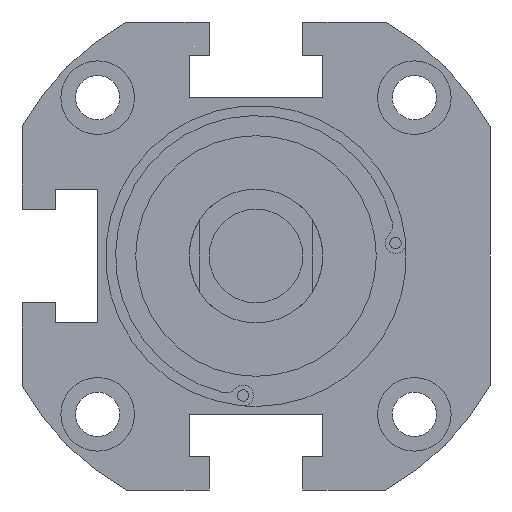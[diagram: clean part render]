
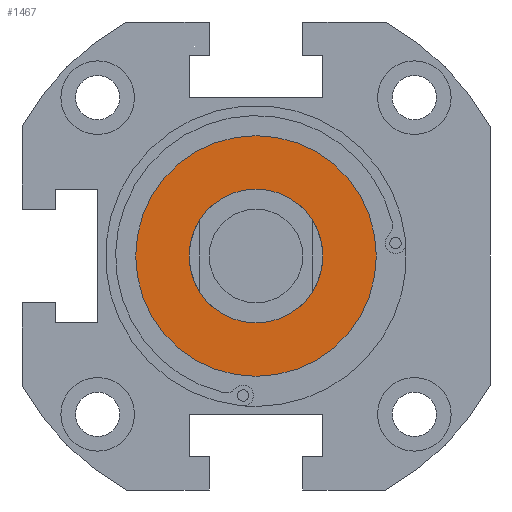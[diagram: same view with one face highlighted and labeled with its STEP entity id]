
A CAD part, front view. The second image highlights one B-rep face of the part: STEP entity #1467.
In plain terms, the highlighted planar face has unit normal (0, -1, 0).
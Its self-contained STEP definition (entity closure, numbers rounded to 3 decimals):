
#20 = AXIS2_PLACEMENT_3D ( 'NONE', #3705, #4359, #2014 ) ;
#93 = DIRECTION ( 'NONE',  ( 0., 1., 0. ) ) ;
#121 = ORIENTED_EDGE ( 'NONE', *, *, #1842, .F. ) ;
#200 = CIRCLE ( 'NONE', #3484, 18. ) ;
#606 = PLANE ( 'NONE',  #20 ) ;
#615 = EDGE_CURVE ( 'NONE', #1944, #4026, #3977, .T. ) ;
#843 = CARTESIAN_POINT ( 'NONE',  ( 0., -40., 0. ) ) ;
#858 = DIRECTION ( 'NONE',  ( 0., 1., 0. ) ) ;
#981 = CIRCLE ( 'NONE', #3342, 18. ) ;
#1004 = VERTEX_POINT ( 'NONE', #3272 ) ;
#1026 = DIRECTION ( 'NONE',  ( 0., 0., 1. ) ) ;
#1039 = CARTESIAN_POINT ( 'NONE',  ( 0., -40., 0. ) ) ;
#1061 = EDGE_LOOP ( 'NONE', ( #3441, #1769 ) ) ;
#1214 = CARTESIAN_POINT ( 'NONE',  ( 0., -40., 0. ) ) ;
#1467 = ADVANCED_FACE ( 'NONE', ( #4461, #4024 ), #606, .F. ) ;
#1714 = DIRECTION ( 'NONE',  ( 0., 1., 0. ) ) ;
#1751 = AXIS2_PLACEMENT_3D ( 'NONE', #3217, #3540, #4233 ) ;
#1769 = ORIENTED_EDGE ( 'NONE', *, *, #3373, .T. ) ;
#1842 = EDGE_CURVE ( 'NONE', #2842, #1004, #981, .T. ) ;
#1850 = EDGE_CURVE ( 'NONE', #1004, #2842, #200, .T. ) ;
#1944 = VERTEX_POINT ( 'NONE', #4291 ) ;
#2014 = DIRECTION ( 'NONE',  ( 0., 0., 1. ) ) ;
#2223 = ORIENTED_EDGE ( 'NONE', *, *, #1850, .F. ) ;
#2458 = CARTESIAN_POINT ( 'NONE',  ( 0., -40., 18. ) ) ;
#2531 = CARTESIAN_POINT ( 'NONE',  ( 0., -40., -10. ) ) ;
#2555 = DIRECTION ( 'NONE',  ( 0., 0., 1. ) ) ;
#2842 = VERTEX_POINT ( 'NONE', #2458 ) ;
#3217 = CARTESIAN_POINT ( 'NONE',  ( 0., -40., 0. ) ) ;
#3223 = DIRECTION ( 'NONE',  ( 0., 0., 1. ) ) ;
#3259 = CIRCLE ( 'NONE', #1751, 10. ) ;
#3272 = CARTESIAN_POINT ( 'NONE',  ( 0., -40., -18. ) ) ;
#3342 = AXIS2_PLACEMENT_3D ( 'NONE', #1214, #858, #2555 ) ;
#3373 = EDGE_CURVE ( 'NONE', #4026, #1944, #3259, .T. ) ;
#3441 = ORIENTED_EDGE ( 'NONE', *, *, #615, .T. ) ;
#3466 = AXIS2_PLACEMENT_3D ( 'NONE', #1039, #1714, #1026 ) ;
#3484 = AXIS2_PLACEMENT_3D ( 'NONE', #843, #93, #3223 ) ;
#3492 = EDGE_LOOP ( 'NONE', ( #2223, #121 ) ) ;
#3540 = DIRECTION ( 'NONE',  ( 0., 1., 0. ) ) ;
#3705 = CARTESIAN_POINT ( 'NONE',  ( 0., -40., 0. ) ) ;
#3977 = CIRCLE ( 'NONE', #3466, 10. ) ;
#4024 = FACE_BOUND ( 'NONE', #1061, .T. ) ;
#4026 = VERTEX_POINT ( 'NONE', #2531 ) ;
#4233 = DIRECTION ( 'NONE',  ( 0., 0., 1. ) ) ;
#4291 = CARTESIAN_POINT ( 'NONE',  ( 0., -40., 10. ) ) ;
#4359 = DIRECTION ( 'NONE',  ( 0., 1., 0. ) ) ;
#4461 = FACE_OUTER_BOUND ( 'NONE', #3492, .T. ) ;
